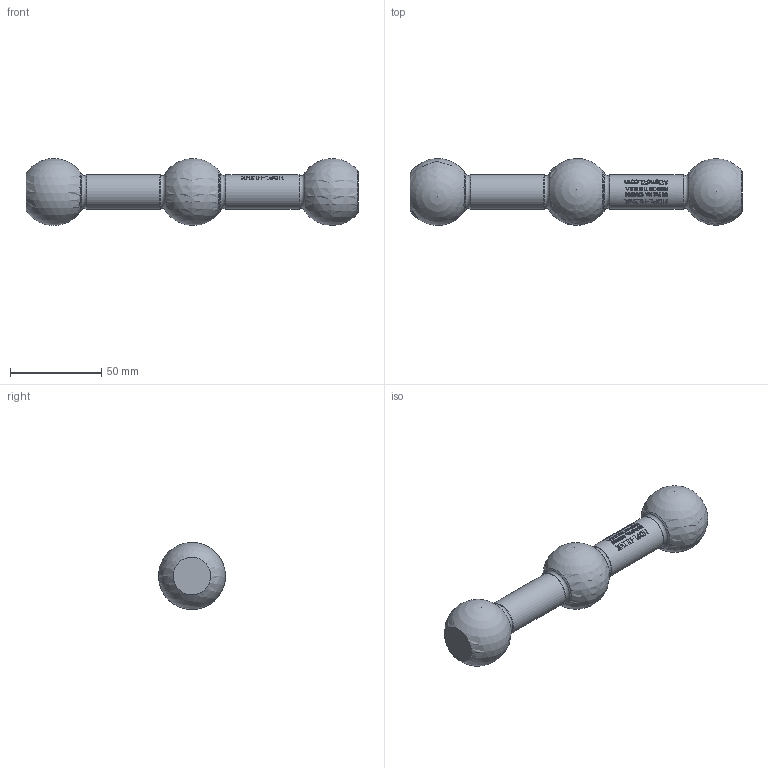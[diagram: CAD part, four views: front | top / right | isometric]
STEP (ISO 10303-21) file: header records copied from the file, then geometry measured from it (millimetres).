
FILE_DESCRIPTION(/* description */ (''),/* implementation_level */ '2;1');
FILE_NAME(/* name */ 'C:\Users\owner\Desktop\HDPL-HYPERLINKS_3D_stp\HDPL-HLINK6IN.stp',/* time_stamp */ '2017-10-02T13:30:08-04:00',/* author */ ('owner'),/* organization */ (''),/* preprocessor_version */ 'ST-DEVELOPER v16.5',/* originating_system */ 'Autodesk Inventor 2017',/* authorisation */ '');
FILE_SCHEMA (('CONFIG_CONTROL_DESIGN'));
Length unit declared in the file: inch
Products named in the file (4): PL-HDHLINK6IN; 60062; 60062_1; 60063
Assembly tree (3 placements, depth 2):
  PL-HDHLINK6IN
    60062
    60062_1
    60063
Bounding box: 181.74 x 36.56 x 36.65 mm (x, y, z)
Volume: 95324.5 mm3; surface area: 22933.3 mm2
Topology: 3 solids, 3 shells, 798 faces, 2132 edges, 1410 vertices
Faces by surface type: bspline 344, plane 336, cylinder 85, torus 22, cone 8, sphere 3
Full cylindrical faces by diameter (mm): 13.017 x2, 13.08 x8, 13.109 x3, 19.083 x2, 21.92 x2
Entity records: 33234 total; most frequent: CARTESIAN_POINT 15390, ORIENTED_EDGE 4146, DIRECTION 2708, EDGE_CURVE 2073, VERTEX_POINT 1401, LINE 1008, VECTOR 1008, EDGE_LOOP 918
